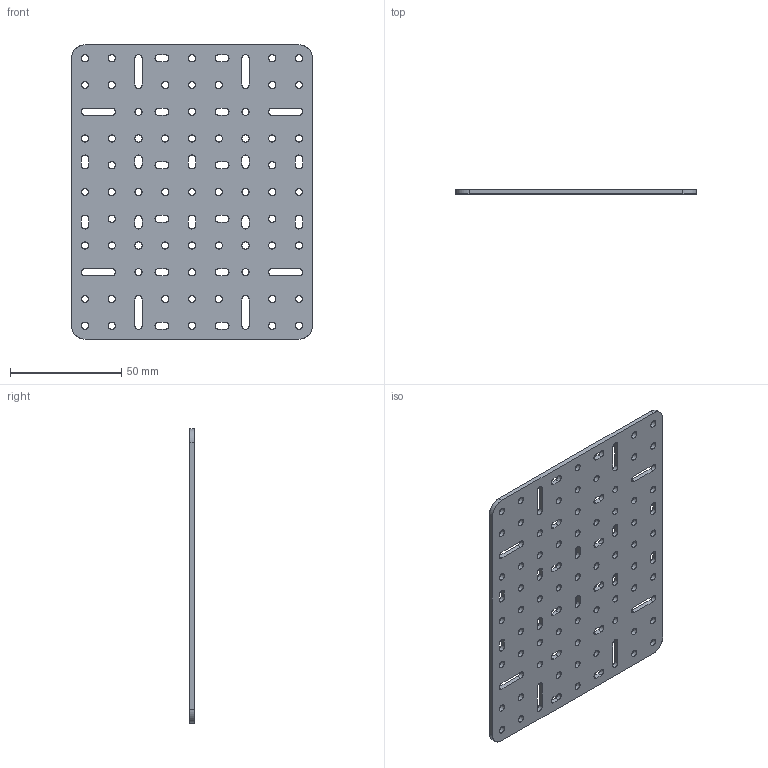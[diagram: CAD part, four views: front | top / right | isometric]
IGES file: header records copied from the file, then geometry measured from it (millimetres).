
Start section: SolidWorks IGES file using analytic representation for surfaces
Global section: file name: C:\Users\tahsi\Desktop\SMD\3D tasarýmlar\Building Set\9x11 Plate\9x11 Plate.IGS; native system: SolidWorks 2023; preprocessor: SolidWorks 2023; author: tahsi; date: 240613.122300; units: millimetre
Bounding box: 108 x 2 x 132 mm (x, y, z)
Surface area: 29366.7 mm2 (no closed solid volume)
Topology: 0 solids, 0 shells, 268 faces, 7080 edges, 7080 vertices
Faces by surface type: revolution 202, bspline 66
